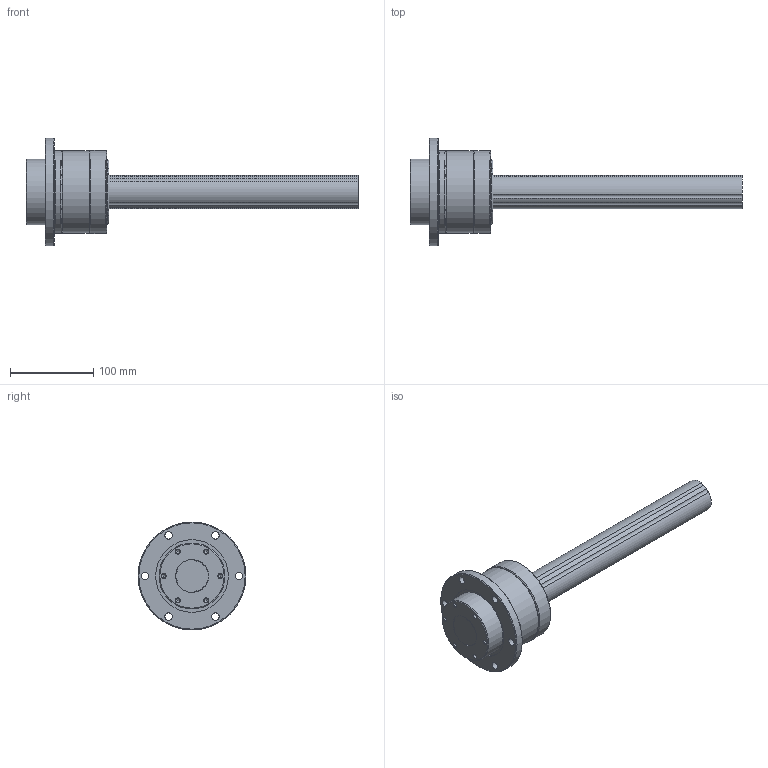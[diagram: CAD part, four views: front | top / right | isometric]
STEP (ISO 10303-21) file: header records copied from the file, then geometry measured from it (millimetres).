
FILE_DESCRIPTION(/* description */ ('STEP AP214'),/* implementation_level */ '2;1');
FILE_NAME(/* name */ 'LTR40+400L(00-)',/* time_stamp */ '2024-09-04T12:27:10+02:00',/* author */ ('License CC BY-ND 4.0'),/* organization */ ('CADENAS'),/* preprocessor_version */ 'ST-DEVELOPER v19.3',/* originating_system */ 'PARTsolutions',/* authorisation */ ' ');
FILE_SCHEMA (('AUTOMOTIVE_DESIGN {1 0 10303 214 3 1 1}'));
Length unit declared in the file: millimetre
Products named in the file (3): LTR40+400L(00-); LTR 40400 CTLTR Shaft; LTR 40 CTLTR Cyl
Assembly tree (3 placements, depth 2):
  LTR40+400L(00-)
    LTR 40400 CTLTR Shaft
    LTR 40 CTLTR Cyl  x2
Bounding box: 400 x 130 x 130 mm (x, y, z)
Volume: 1734573.7 mm3; surface area: 203682.3 mm2
Topology: 3 solids, 3 shells, 124 faces, 284 edges, 184 vertices
Faces by surface type: cylinder 58, cone 36, plane 24, torus 6
Full cylindrical faces by diameter (mm): 4.917 x12, 9 x12, 40 x2, 79.5 x4, 87.45 x2, 90 x2, 99 x4, 100 x4, 100.6 x2, 130 x2
Entity records: 1739 total; most frequent: DIRECTION 328, CARTESIAN_POINT 261, ORIENTED_EDGE 194, AXIS2_PLACEMENT_3D 158, FACE_BOUND 142, EDGE_LOOP 136, EDGE_CURVE 97, VERTEX_POINT 91
